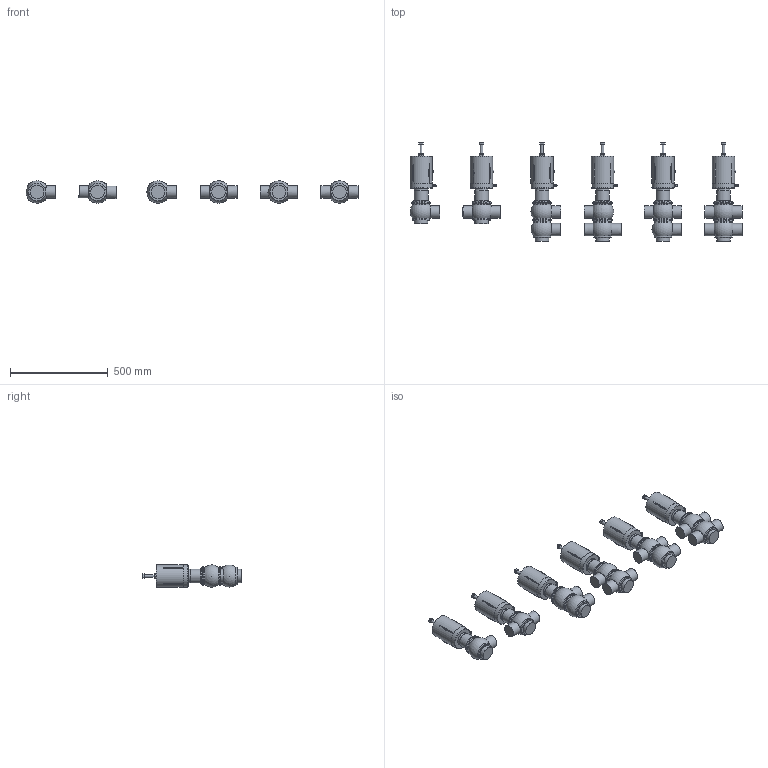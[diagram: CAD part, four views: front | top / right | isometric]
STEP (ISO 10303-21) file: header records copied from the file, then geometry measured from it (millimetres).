
FILE_DESCRIPTION((''),'2;1');
FILE_NAME('\\BV-SRV1\Ufficio tecnico\cad3d\PNEUMATICA\Ing1-1\pne bbzp e derivate\BBZS5\BBZS5-DN0635-CIL108-SAL.iam.step','2009-10-19T10:17:57',(''),(''),'Autodesk Inventor 2010','Autodesk Inventor 2010','');
FILE_SCHEMA(('AUTOMOTIVE_DESIGN { 1 0 10303 214 1 1 1 1 }'));
Length unit declared in the file: millimetre
Products named in the file (7): BBZS5-DN0635-CIL108-SAL; Assemblaggio-DN065; COR-INF-L-SAL-DN63; COR-INF-T-SAL-DN63; COR-SUP-L-SAL-DN63; COR-SUP-T-SAL-DN63; cil 108 tarabile
Assembly tree (22 placements, depth 2):
  BBZS5-DN0635-CIL108-SAL
    Assemblaggio-DN065  x6
    COR-INF-L-SAL-DN63  x3
    COR-INF-T-SAL-DN63  x3
    COR-SUP-L-SAL-DN63  x2
    COR-SUP-T-SAL-DN63  x2
    cil 108 tarabile  x6
Bounding box: 1702.03 x 507.2 x 114.23 mm (x, y, z)
Volume: 22104014.5 mm3; surface area: 1334942.8 mm2
Topology: 28 solids, 28 shells, 1266 faces, 3037 edges, 1812 vertices
Faces by surface type: plane 473, cylinder 283, cone 260, bspline 120, sphere 82, torus 48
Full cylindrical faces by diameter (mm): 4.9 x6, 6 x12, 7 x6, 8.3 x6, 10 x6, 11 x6, 11.5 x6, 14 x6, 19.37 x6, 63.5 x15, 69 x6, 70 x6, 71 x6, 90 x26, 98 x20, 113.5 x6, 114.5 x6
Entity records: 7607 total; most frequent: CARTESIAN_POINT 2338, DIRECTION 1030, ORIENTED_EDGE 902, EDGE_CURVE 451, AXIS2_PLACEMENT_3D 437, EDGE_LOOP 340, VERTEX_POINT 309, FACE_OUTER_BOUND 240
